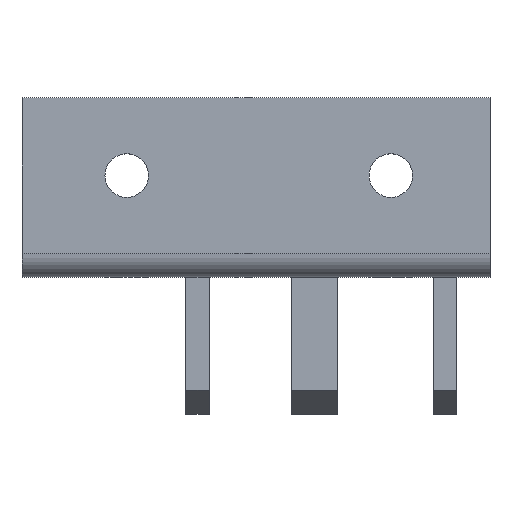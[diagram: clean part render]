
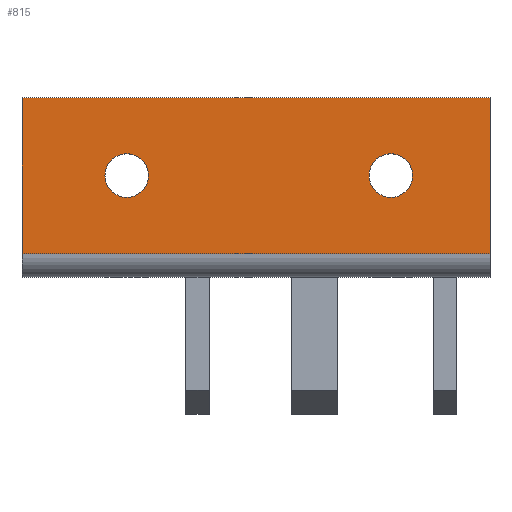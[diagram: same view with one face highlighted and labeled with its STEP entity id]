
A CAD part, top view. The second image highlights one B-rep face of the part: STEP entity #815.
In plain terms, the highlighted free-form (B-spline) face has degree [1, 1] with [2, 2] control points.
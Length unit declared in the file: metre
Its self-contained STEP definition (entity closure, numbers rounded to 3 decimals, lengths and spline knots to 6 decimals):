
#28=LINE('',#1190,#101);
#36=LINE('',#1210,#109);
#41=LINE('',#1271,#114);
#42=LINE('',#1276,#115);
#101=VECTOR('',#936,1.);
#109=VECTOR('',#944,1.);
#114=VECTOR('',#963,1.);
#115=VECTOR('',#964,1.);
#165=B_SPLINE_SURFACE_WITH_KNOTS('',1,1,((#1272,#1273),(#1274,#1275)),
 .PLANE_SURF.,.F.,.F.,.F.,(2,2),(2,2),(0.,1.),(0.,1.),.UNSPECIFIED.);
#303=ORIENTED_EDGE('',*,*,#503,.F.);
#304=ORIENTED_EDGE('',*,*,#490,.T.);
#305=ORIENTED_EDGE('',*,*,#502,.T.);
#306=ORIENTED_EDGE('',*,*,#482,.F.);
#307=ORIENTED_EDGE('',*,*,#501,.T.);
#308=ORIENTED_EDGE('',*,*,#447,.T.);
#309=ORIENTED_EDGE('',*,*,#500,.T.);
#310=ORIENTED_EDGE('',*,*,#451,.T.);
#447=EDGE_CURVE('',#564,#565,#636,.T.);
#451=EDGE_CURVE('',#568,#569,#638,.T.);
#482=EDGE_CURVE('',#596,#597,#28,.T.);
#490=EDGE_CURVE('',#605,#604,#36,.T.);
#500=EDGE_CURVE('',#569,#568,#652,.T.);
#501=EDGE_CURVE('',#565,#564,#653,.T.);
#502=EDGE_CURVE('',#604,#597,#41,.T.);
#503=EDGE_CURVE('',#605,#596,#42,.T.);
#564=VERTEX_POINT('',#1083);
#565=VERTEX_POINT('',#1084);
#568=VERTEX_POINT('',#1101);
#569=VERTEX_POINT('',#1102);
#596=VERTEX_POINT('',#1189);
#597=VERTEX_POINT('',#1191);
#604=VERTEX_POINT('',#1209);
#605=VERTEX_POINT('',#1211);
#636=CIRCLE('',#860,0.002793);
#638=CIRCLE('',#862,0.002793);
#652=CIRCLE('',#876,0.002793);
#653=CIRCLE('',#877,0.002793);
#687=EDGE_LOOP('',(#303,#304,#305,#306));
#688=EDGE_LOOP('',(#307,#308));
#689=EDGE_LOOP('',(#309,#310));
#748=FACE_BOUND('',#687,.T.);
#749=FACE_BOUND('',#688,.T.);
#750=FACE_BOUND('',#689,.T.);
#815=ADVANCED_FACE('',(#748,#749,#750),#165,.T.);
#860=AXIS2_PLACEMENT_3D('',#1082,#898,#899);
#862=AXIS2_PLACEMENT_3D('',#1100,#902,#903);
#876=AXIS2_PLACEMENT_3D('',#1257,#959,#960);
#877=AXIS2_PLACEMENT_3D('',#1266,#961,#962);
#898=DIRECTION('',(0.,0.,-1.));
#899=DIRECTION('',(0.,1.,0.));
#902=DIRECTION('',(0.,0.,-1.));
#903=DIRECTION('',(0.,1.,0.));
#936=DIRECTION('',(0.,1.,0.));
#944=DIRECTION('',(0.,1.,0.));
#959=DIRECTION('',(0.,0.,-1.));
#960=DIRECTION('',(0.,1.,0.));
#961=DIRECTION('',(0.,0.,-1.));
#962=DIRECTION('',(0.,1.,0.));
#963=DIRECTION('',(-1.,0.,0.));
#964=DIRECTION('',(-1.,0.,0.));
#1082=CARTESIAN_POINT('',(0.192695,0.01,-0.027949));
#1083=CARTESIAN_POINT('',(0.192695,0.012793,-0.027949));
#1084=CARTESIAN_POINT('',(0.192695,0.007207,-0.027949));
#1100=CARTESIAN_POINT('',(0.158831,0.01,-0.027949));
#1101=CARTESIAN_POINT('',(0.158831,0.012793,-0.027949));
#1102=CARTESIAN_POINT('',(0.158831,0.007207,-0.027949));
#1189=CARTESIAN_POINT('',(0.145402,0.,-0.027949));
#1190=CARTESIAN_POINT('',(0.145402,-0.005,-0.027949));
#1191=CARTESIAN_POINT('',(0.145402,0.02,-0.027949));
#1209=CARTESIAN_POINT('',(0.205402,0.02,-0.027949));
#1210=CARTESIAN_POINT('',(0.205402,-0.01,-0.027949));
#1211=CARTESIAN_POINT('',(0.205402,0.,-0.027949));
#1257=CARTESIAN_POINT('',(0.158831,0.01,-0.027949));
#1266=CARTESIAN_POINT('',(0.192695,0.01,-0.027949));
#1271=CARTESIAN_POINT('',(0.175402,0.02,-0.027949));
#1272=CARTESIAN_POINT('',(0.142402,-0.001,-0.027949));
#1273=CARTESIAN_POINT('',(0.142402,0.021,-0.027949));
#1274=CARTESIAN_POINT('',(0.208402,-0.001,-0.027949));
#1275=CARTESIAN_POINT('',(0.208402,0.021,-0.027949));
#1276=CARTESIAN_POINT('',(0.166004,0.,-0.027949));
